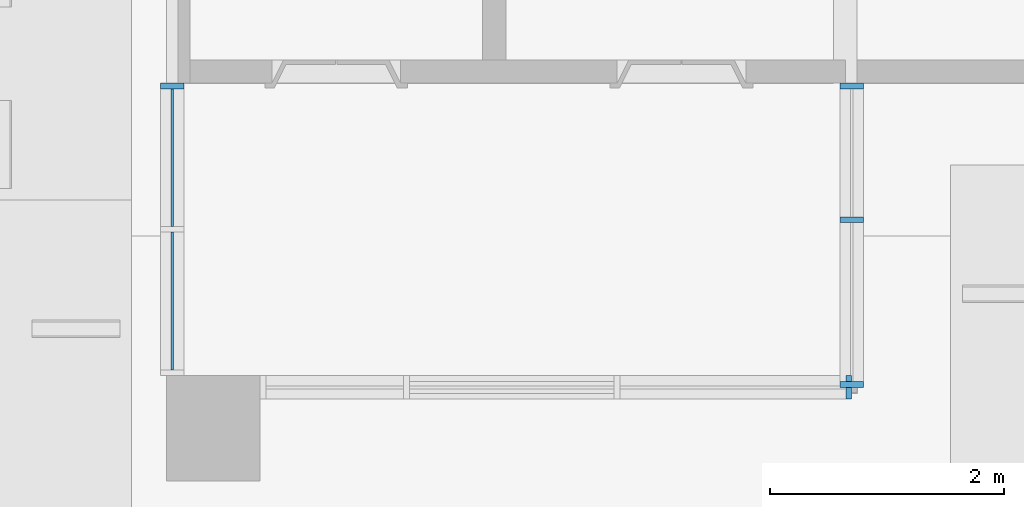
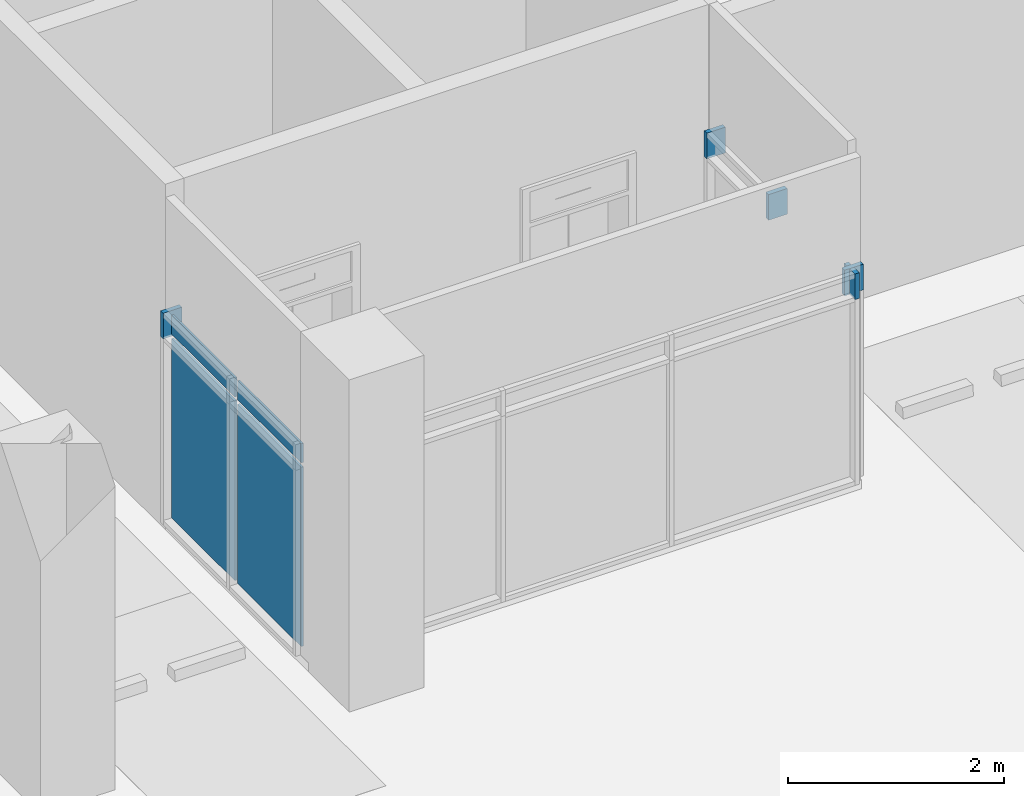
# One storey, part 3 of 30: 5 members, 4 plates, 3 elements without a shape of their own.
"""IFC2X3 building model written with IfcOpenShell, lengths in millimetres."""

from ifc_helpers import new_model, entity, si_unit, converted_unit, derived_unit, direction, frame, origin, origin_2d_with_axis, place, context, subcontext, project, spatial, rectangle, extrude, source, transform, mapped, material, type_object, type_shapes, element, aggregate, save


model = new_model("IFC2X3")

# Units and contexts
model_context = context("Model", 3, precision=0.01, world=origin(), true_north=direction((6.123031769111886e-17, 1.0)))
body_context = subcontext(model_context, "Body", "Model", "MODEL_VIEW")
ifc_project = project(units=[si_unit("LENGTHUNIT", "METRE", prefix="MILLI"), si_unit("AREAUNIT", "SQUARE_METRE"), si_unit("VOLUMEUNIT", "CUBIC_METRE"), converted_unit("PLANEANGLEUNIT", "DEGREE", entity("IfcRatioMeasure", 0.017453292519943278), si_unit("PLANEANGLEUNIT", "RADIAN"), dimensions=[0, 0, 0, 0, 0, 0, 0]), si_unit("MASSUNIT", "GRAM", prefix="KILO"), derived_unit("MASSDENSITYUNIT", [(si_unit("MASSUNIT", "GRAM", prefix="KILO"), 1), (si_unit("LENGTHUNIT", "METRE"), -3)]), derived_unit("MOMENTOFINERTIAUNIT", [(si_unit("LENGTHUNIT", "METRE"), 4)]), si_unit("TIMEUNIT", "SECOND"), si_unit("FREQUENCYUNIT", "HERTZ"), si_unit("THERMODYNAMICTEMPERATUREUNIT", "DEGREE_CELSIUS"), derived_unit("THERMALTRANSMITTANCEUNIT", [(si_unit("MASSUNIT", "GRAM", prefix="KILO"), 1), (si_unit("THERMODYNAMICTEMPERATUREUNIT", "KELVIN"), -1), (si_unit("TIMEUNIT", "SECOND"), -3)]), derived_unit("VOLUMETRICFLOWRATEUNIT", [(si_unit("LENGTHUNIT", "METRE"), 3), (si_unit("TIMEUNIT", "SECOND"), -1)]), derived_unit("MASSFLOWRATEUNIT", [(si_unit("MASSUNIT", "GRAM", prefix="KILO"), 1), (si_unit("TIMEUNIT", "SECOND"), -1)]), derived_unit("ROTATIONALFREQUENCYUNIT", [(si_unit("TIMEUNIT", "SECOND"), -1)]), si_unit("ELECTRICCURRENTUNIT", "AMPERE"), si_unit("ELECTRICVOLTAGEUNIT", "VOLT"), si_unit("POWERUNIT", "WATT"), si_unit("FORCEUNIT", "NEWTON", prefix="KILO"), si_unit("ILLUMINANCEUNIT", "LUX"), si_unit("LUMINOUSFLUXUNIT", "LUMEN"), si_unit("LUMINOUSINTENSITYUNIT", "CANDELA"), derived_unit("USERDEFINED", [(si_unit("MASSUNIT", "GRAM", prefix="KILO"), -1), (si_unit("LENGTHUNIT", "METRE"), -2), (si_unit("TIMEUNIT", "SECOND"), 3), (si_unit("LUMINOUSFLUXUNIT", "LUMEN"), 1)]), derived_unit("SOUNDPOWERUNIT", [(si_unit("MASSUNIT", "GRAM", prefix="KILO"), 1), (si_unit("LENGTHUNIT", "METRE"), 2), (si_unit("TIMEUNIT", "SECOND"), -3)]), derived_unit("SOUNDPRESSUREUNIT", [(si_unit("MASSUNIT", "GRAM", prefix="KILO"), 1), (si_unit("LENGTHUNIT", "METRE"), -1), (si_unit("TIMEUNIT", "SECOND"), -2)]), derived_unit("LINEARVELOCITYUNIT", [(si_unit("LENGTHUNIT", "METRE"), 1), (si_unit("TIMEUNIT", "SECOND"), -1)]), si_unit("PRESSUREUNIT", "PASCAL"), derived_unit("USERDEFINED", [(si_unit("LENGTHUNIT", "METRE"), -2), (si_unit("MASSUNIT", "GRAM", prefix="KILO"), 1), (si_unit("TIMEUNIT", "SECOND"), -2)]), derived_unit("LINEARFORCEUNIT", [(si_unit("MASSUNIT", "GRAM", prefix="KILO"), 1), (si_unit("LENGTHUNIT", "METRE"), 1), (si_unit("TIMEUNIT", "SECOND"), -2), (si_unit("LENGTHUNIT", "METRE"), -1)]), derived_unit("PLANARFORCEUNIT", [(si_unit("MASSUNIT", "GRAM", prefix="KILO"), 1), (si_unit("LENGTHUNIT", "METRE"), 1), (si_unit("TIMEUNIT", "SECOND"), -2), (si_unit("LENGTHUNIT", "METRE"), -2)])], contexts=[model_context])

# Site, building, storey
site_placement = place(None, frame((-14167.972527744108, -657.2125860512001, 0.0)))
site = spatial("IfcSite", under=ifc_project, at=site_placement, Name="Default", CompositionType="ELEMENT")
building_placement = place(site_placement, origin())
building = spatial("IfcBuilding", under=site, at=building_placement, Name="Sample Building", CompositionType="ELEMENT")
storey_placement = place(building_placement, frame((0.0, 0.0, -10100.0)))
storey = spatial("IfcBuildingStorey", under=building, at=storey_placement, Name="지하2층", CompositionType="ELEMENT", Elevation=-10100.0)

# Curtain wall, member
curtain_wall_type = type_object("IfcCurtainWallType", Name="커튼월:CW112-스테인리스 스틸 커튼월", PredefinedType="NOTDEFINED")
curtain_wall_1_placement = place(storey_placement, frame((0.0, 0.0, 10100.0)))
curtain_wall_1 = element("IfcCurtainWall", 1, at=curtain_wall_1_placement, inside=storey, type_object=curtain_wall_type, Name="커튼월:CW112-스테인리스 스틸 커튼월", ObjectType="커튼월:CW112-스테인리스 스틸 커튼월")
ifc_material_1 = material(Name="<Unnamed>")
member_type_1 = type_object("IfcMemberType", Name="직사각형 멀리언:CW200-직사각형 멀리언 50x200mm", PredefinedType="MULLION", material=ifc_material_1)
shared_shape_1 = source(origin(), body_context, "Body", "SweptSolid", [
    extrude(rectangle(XDim=200.0, YDim=50.0, at=origin_2d_with_axis()), frame((-25.0, 0.0, -290.0), z_axis=(0.0, 0.0, 1.0), x_axis=(0.0, -1.0, 0.0)), (0.0, 0.0, 1.0), 290.0000000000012),
])
type_shapes(member_type_1, [shared_shape_1])
member_1_placement = place(curtain_wall_1_placement, frame((30116.125814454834, 15557.212586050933, -7510.0), z_axis=(0.0, 0.0, 1.0), x_axis=(0.0, 1.0, 0.0)))
member_1 = element("IfcMember", 2, at=member_1_placement, type_object=member_type_1, material=ifc_material_1, Name="직사각형 멀리언:CW200-직사각형 멀리언 50x200mm", ObjectType="직사각형 멀리언:CW200-직사각형 멀리언 50x200mm", context=body_context, shape_type="MappedRepresentation", body=[
    mapped(shared_shape_1, transform((0.0, 0.0, 0.0), scale=1.0)),
])

curtain_wall_2_placement = place(storey_placement, frame((0.0, 0.0, 10100.0)))
curtain_wall_2 = element("IfcCurtainWall", 3, at=curtain_wall_2_placement, inside=storey, type_object=curtain_wall_type, Name="커튼월:CW112-스테인리스 스틸 커튼월", ObjectType="커튼월:CW112-스테인리스 스틸 커튼월")
member_type_2 = type_object("IfcMemberType", Name="직사각형 멀리언:CW200-직사각형 멀리언 50x200mm", PredefinedType="MULLION", material=ifc_material_1)
shared_shape_2 = source(origin(), body_context, "Body", "SweptSolid", [
    extrude(rectangle(XDim=200.0, YDim=50.0, at=origin_2d_with_axis()), frame((-25.0, 0.0, -290.0), z_axis=(0.0, 0.0, 1.0), x_axis=(0.0, -1.0, 0.0)), (0.0, 0.0, 1.0), 290.0000000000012),
])
type_shapes(member_type_2, [shared_shape_2])
member_2_placement = place(curtain_wall_2_placement, frame((35922.97249113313, 15557.212586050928, -7510.0), z_axis=(0.0, 0.0, 1.0), x_axis=(0.0, 1.0, 0.0)))
member_2 = element("IfcMember", 4, at=member_2_placement, type_object=member_type_2, material=ifc_material_1, Name="직사각형 멀리언:CW200-직사각형 멀리언 50x200mm", ObjectType="직사각형 멀리언:CW200-직사각형 멀리언 50x200mm", context=body_context, shape_type="MappedRepresentation", body=[
    mapped(shared_shape_2, transform((0.0, 0.0, 0.0), scale=1.0)),
])

curtain_wall_3_placement = place(storey_placement, frame((0.0, 0.0, 10100.0)))
curtain_wall_3 = element("IfcCurtainWall", 5, at=curtain_wall_3_placement, inside=storey, type_object=curtain_wall_type, Name="커튼월:CW112-스테인리스 스틸 커튼월", ObjectType="커튼월:CW112-스테인리스 스틸 커튼월")
member_type_3 = type_object("IfcMemberType", Name="직사각형 멀리언:CW200-직사각형 멀리언 50x200mm", PredefinedType="MULLION", material=ifc_material_1)
shared_shape_3 = source(origin(), body_context, "Body", "SweptSolid", [
    extrude(rectangle(XDim=200.0, YDim=50.0, at=origin_2d_with_axis()), frame((-25.0, 0.0, -290.0), z_axis=(0.0, 0.0, 1.0), x_axis=(0.0, -1.0, 0.0)), (0.0, 0.0, 1.0), 290.0000000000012),
])
type_shapes(member_type_3, [shared_shape_3])
member_3_placement = place(curtain_wall_3_placement, frame((35922.97249113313, 12957.212586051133, -7800.0), z_axis=(0.0, 0.0, -1.0), x_axis=(1.0, 0.0, 0.0)))
member_3 = element("IfcMember", 6, at=member_3_placement, type_object=member_type_3, material=ifc_material_1, Name="직사각형 멀리언:CW200-직사각형 멀리언 50x200mm", ObjectType="직사각형 멀리언:CW200-직사각형 멀리언 50x200mm", context=body_context, shape_type="MappedRepresentation", body=[
    mapped(shared_shape_3, transform((0.0, 0.0, 0.0), scale=1.0)),
])
aggregate(curtain_wall_3, [member_3])

# Member
member_4_placement = place(curtain_wall_2_placement, frame((35922.97249113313, 12957.212586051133, -7800.0), z_axis=(0.0, 0.0, -1.0), x_axis=(0.0, -1.0, 0.0)))
member_4 = element("IfcMember", 7, at=member_4_placement, type_object=member_type_3, material=ifc_material_1, Name="직사각형 멀리언:CW200-직사각형 멀리언 50x200mm", ObjectType="직사각형 멀리언:CW200-직사각형 멀리언 50x200mm", context=body_context, shape_type="MappedRepresentation", body=[
    mapped(shared_shape_3, transform((0.0, 0.0, 0.0), scale=1.0)),
])

member_type_4 = type_object("IfcMemberType", Name="직사각형 멀리언:CW200-직사각형 멀리언 50x200mm", PredefinedType="MULLION", material=ifc_material_1)
shared_shape_4 = source(origin(), body_context, "Body", "SweptSolid", [
    extrude(rectangle(XDim=200.0, YDim=50.0, at=origin_2d_with_axis()), frame((0.0, 0.0, -290.0), z_axis=(0.0, 0.0, 1.0), x_axis=(0.0, -1.0, 0.0)), (0.0, 0.0, 1.0), 290.0000000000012),
])
type_shapes(member_type_4, [shared_shape_4])
member_5_placement = place(curtain_wall_2_placement, frame((35922.97249113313, 14390.527913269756, -7800.0), z_axis=(0.0, 0.0, -1.0), x_axis=(0.0, -1.0, 0.0)))
member_5 = element("IfcMember", 8, at=member_5_placement, type_object=member_type_4, material=ifc_material_1, Name="직사각형 멀리언:CW200-직사각형 멀리언 50x200mm", ObjectType="직사각형 멀리언:CW200-직사각형 멀리언 50x200mm", context=body_context, shape_type="MappedRepresentation", body=[
    mapped(shared_shape_4, transform((0.0, 0.0, 0.0), scale=1.0)),
])

aggregate(curtain_wall_2, [member_2, member_4, member_5])

# Plate
ifc_material_2 = material(Name="KBIMS-로이유리(코팅)")
plate_type_1 = type_object("IfcPlateType", Name="CW300-THK24.Low-e coating glass:CW300-THK24.Low-e coating glass", PredefinedType="CURTAIN_PANEL", material=ifc_material_2)
shared_shape_5 = source(origin(), body_context, "Body", "SweptSolid", [
    extrude(rectangle(XDim=24.000000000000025, YDim=1173.045319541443, at=origin_2d_with_axis()), frame((0.0, 0.0, 0.0), z_axis=(0.0, 0.0, 1.0), x_axis=(0.0, 1.0, 0.0)), (0.0, 0.0, 1.0), 2024.9999999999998),
])
type_shapes(plate_type_1, [shared_shape_5])
plate_1_placement = place(curtain_wall_1_placement, frame((30116.125814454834, 14920.689926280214, -9850.0), z_axis=(0.0, 0.0, 1.0), x_axis=(0.0, -1.0, 0.0)))
plate_1 = element("IfcPlate", 9, at=plate_1_placement, type_object=plate_type_1, material=ifc_material_2, Name="CW300-THK24.Low-e coating glass:CW300-THK24.Low-e coating glass", ObjectType="CW300-THK24.Low-e coating glass:CW300-THK24.Low-e coating glass", context=body_context, shape_type="MappedRepresentation", body=[
    mapped(shared_shape_5, transform((0.0, 0.0, 0.0), scale=1.0)),
])

plate_type_2 = type_object("IfcPlateType", Name="CW300-THK24.Low-e coating glass:CW300-THK24.Low-e coating glass", PredefinedType="CURTAIN_PANEL", material=ifc_material_2)
shared_shape_6 = source(origin(), body_context, "Body", "SweptSolid", [
    extrude(rectangle(XDim=24.000000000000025, YDim=1176.9549585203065, at=origin_2d_with_axis()), frame((0.0, 0.0, 0.0), z_axis=(0.0, 0.0, 1.0), x_axis=(0.0, 1.0, 0.0)), (0.0, 0.0, 1.0), 2024.9999999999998),
])
type_shapes(plate_type_2, [shared_shape_6])
plate_2_placement = place(curtain_wall_1_placement, frame((30116.12581445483, 13695.689787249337, -9850.0), z_axis=(0.0, 0.0, 1.0), x_axis=(0.0, -1.0, 0.0)))
plate_2 = element("IfcPlate", 10, at=plate_2_placement, type_object=plate_type_2, material=ifc_material_2, Name="CW300-THK24.Low-e coating glass:CW300-THK24.Low-e coating glass", ObjectType="CW300-THK24.Low-e coating glass:CW300-THK24.Low-e coating glass", context=body_context, shape_type="MappedRepresentation", body=[
    mapped(shared_shape_6, transform((0.0, 0.0, 0.0), scale=1.0)),
])

plate_type_3 = type_object("IfcPlateType", Name="CW300-THK24.Low-e coating glass:CW300-THK24.Low-e coating glass", PredefinedType="CURTAIN_PANEL", material=ifc_material_2)
shared_shape_7 = source(origin(), body_context, "Body", "SweptSolid", [
    extrude(rectangle(XDim=24.000000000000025, YDim=1173.045319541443, at=origin_2d_with_axis()), frame((0.0, 0.0, 0.0), z_axis=(0.0, 0.0, 1.0), x_axis=(0.0, 1.0, 0.0)), (0.0, 0.0, 1.0), 215.00000000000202),
])
type_shapes(plate_type_3, [shared_shape_7])
plate_3_placement = place(curtain_wall_1_placement, frame((30116.125814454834, 14920.689926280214, -7775.0), z_axis=(0.0, 0.0, 1.0), x_axis=(0.0, -1.0, 0.0)))
plate_3 = element("IfcPlate", 11, at=plate_3_placement, type_object=plate_type_3, material=ifc_material_2, Name="CW300-THK24.Low-e coating glass:CW300-THK24.Low-e coating glass", ObjectType="CW300-THK24.Low-e coating glass:CW300-THK24.Low-e coating glass", context=body_context, shape_type="MappedRepresentation", body=[
    mapped(shared_shape_7, transform((0.0, 0.0, 0.0), scale=1.0)),
])

plate_type_4 = type_object("IfcPlateType", Name="CW300-THK24.Low-e coating glass:CW300-THK24.Low-e coating glass", PredefinedType="CURTAIN_PANEL", material=ifc_material_2)
shared_shape_8 = source(origin(), body_context, "Body", "SweptSolid", [
    extrude(rectangle(XDim=24.000000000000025, YDim=1176.9549585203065, at=origin_2d_with_axis()), frame((0.0, 0.0, 0.0), z_axis=(0.0, 0.0, 1.0), x_axis=(0.0, 1.0, 0.0)), (0.0, 0.0, 1.0), 215.00000000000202),
])
type_shapes(plate_type_4, [shared_shape_8])
plate_4_placement = place(curtain_wall_1_placement, frame((30116.12581445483, 13695.689787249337, -7775.0), z_axis=(0.0, 0.0, 1.0), x_axis=(0.0, -1.0, 0.0)))
plate_4 = element("IfcPlate", 12, at=plate_4_placement, type_object=plate_type_4, material=ifc_material_2, Name="CW300-THK24.Low-e coating glass:CW300-THK24.Low-e coating glass", ObjectType="CW300-THK24.Low-e coating glass:CW300-THK24.Low-e coating glass", context=body_context, shape_type="MappedRepresentation", body=[
    mapped(shared_shape_8, transform((0.0, 0.0, 0.0), scale=1.0)),
])

aggregate(curtain_wall_1, [plate_1, plate_2, plate_3, plate_4, member_1])

save(model, "model.ifc")
